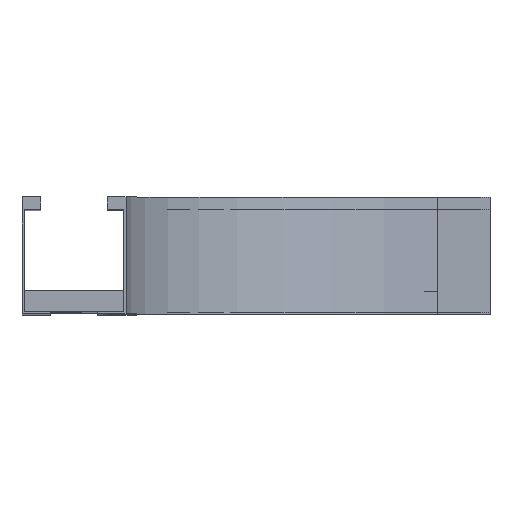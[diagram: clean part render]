
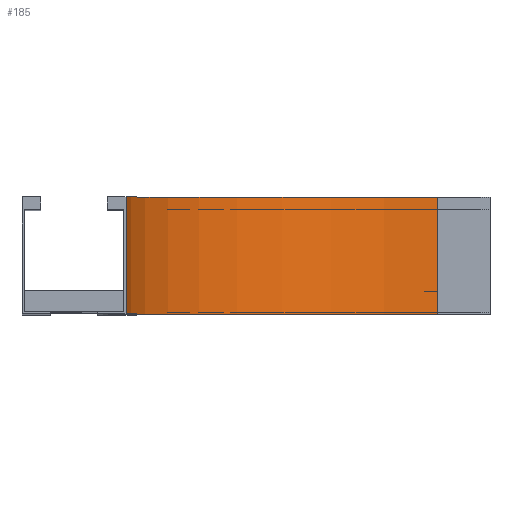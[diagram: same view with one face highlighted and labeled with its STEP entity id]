
A CAD part, top view. The second image highlights one B-rep face of the part: STEP entity #185.
In plain terms, the highlighted cylindrical face has radius 300 mm (diameter 600 mm), a partial arc.
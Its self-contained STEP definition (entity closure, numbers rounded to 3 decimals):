
#24 = DIRECTION ( 'NONE',  ( -1., 0., 0. ) ) ;
#67 = AXIS2_PLACEMENT_3D ( 'NONE', #1123, #1357, #1375 ) ;
#101 = CARTESIAN_POINT ( 'NONE',  ( 0., 0., -50. ) ) ;
#185 = ADVANCED_FACE ( 'NONE', ( #198 ), #1609, .F. ) ;
#193 = ORIENTED_EDGE ( 'NONE', *, *, #483, .F. ) ;
#198 = FACE_OUTER_BOUND ( 'NONE', #203, .T. ) ;
#203 = EDGE_LOOP ( 'NONE', ( #193, #1184, #254, #1263 ) ) ;
#254 = ORIENTED_EDGE ( 'NONE', *, *, #1373, .T. ) ;
#385 = CARTESIAN_POINT ( 'NONE',  ( 300., 112.5, -50. ) ) ;
#437 = VERTEX_POINT ( 'NONE', #1190 ) ;
#464 = DIRECTION ( 'NONE',  ( 0., -1., 0. ) ) ;
#483 = EDGE_CURVE ( 'NONE', #1155, #437, #1463, .T. ) ;
#520 = LINE ( 'NONE', #781, #864 ) ;
#565 = CARTESIAN_POINT ( 'NONE',  ( 0., 0., -50. ) ) ;
#678 = VERTEX_POINT ( 'NONE', #1147 ) ;
#770 = DIRECTION ( 'NONE',  ( 0., 1., 0. ) ) ;
#781 = CARTESIAN_POINT ( 'NONE',  ( 300., 0., -350. ) ) ;
#845 = VERTEX_POINT ( 'NONE', #101 ) ;
#864 = VECTOR ( 'NONE', #770, 1000. ) ;
#1000 = CARTESIAN_POINT ( 'NONE',  ( 300., 0., -50. ) ) ;
#1041 = CARTESIAN_POINT ( 'NONE',  ( 0., 112.5, -50. ) ) ;
#1089 = EDGE_CURVE ( 'NONE', #678, #437, #520, .T. ) ;
#1120 = VECTOR ( 'NONE', #1336, 1000. ) ;
#1123 = CARTESIAN_POINT ( 'NONE',  ( 300., 0., -50. ) ) ;
#1147 = CARTESIAN_POINT ( 'NONE',  ( 300., 0., -350. ) ) ;
#1155 = VERTEX_POINT ( 'NONE', #1041 ) ;
#1184 = ORIENTED_EDGE ( 'NONE', *, *, #1222, .F. ) ;
#1190 = CARTESIAN_POINT ( 'NONE',  ( 300., 112.5, -350. ) ) ;
#1222 = EDGE_CURVE ( 'NONE', #845, #1155, #1229, .T. ) ;
#1225 = CIRCLE ( 'NONE', #1542, 300. ) ;
#1229 = LINE ( 'NONE', #565, #1120 ) ;
#1263 = ORIENTED_EDGE ( 'NONE', *, *, #1089, .T. ) ;
#1332 = DIRECTION ( 'NONE',  ( 0., -1., 0. ) ) ;
#1336 = DIRECTION ( 'NONE',  ( 0., 1., 0. ) ) ;
#1357 = DIRECTION ( 'NONE',  ( 0., -1., 0. ) ) ;
#1373 = EDGE_CURVE ( 'NONE', #845, #678, #1225, .T. ) ;
#1375 = DIRECTION ( 'NONE',  ( 0., 0., -1. ) ) ;
#1463 = CIRCLE ( 'NONE', #1608, 300. ) ;
#1516 = DIRECTION ( 'NONE',  ( -1., 0., 0. ) ) ;
#1542 = AXIS2_PLACEMENT_3D ( 'NONE', #1000, #464, #1516 ) ;
#1608 = AXIS2_PLACEMENT_3D ( 'NONE', #385, #1332, #24 ) ;
#1609 = CYLINDRICAL_SURFACE ( 'NONE', #67, 300. ) ;
